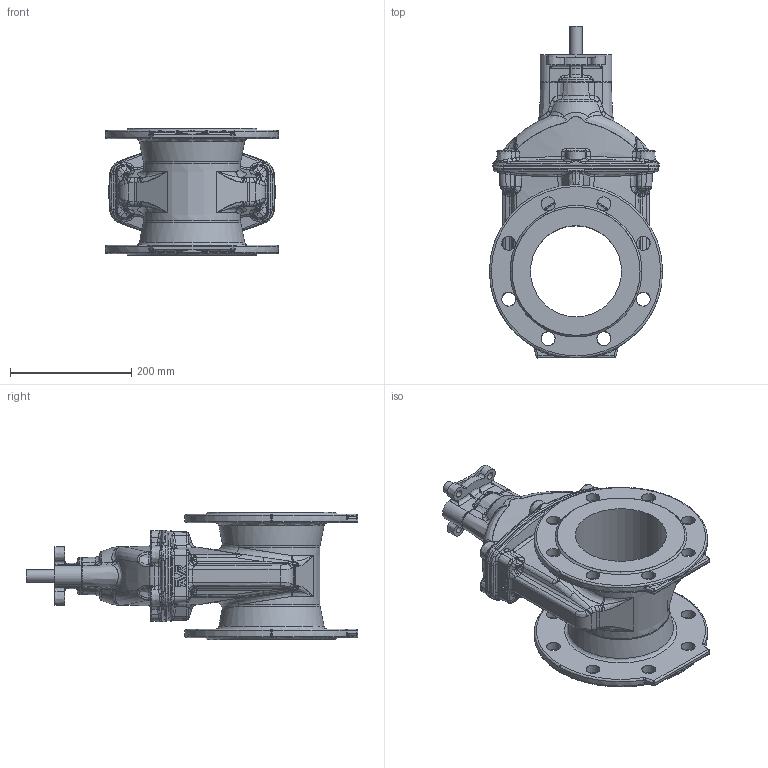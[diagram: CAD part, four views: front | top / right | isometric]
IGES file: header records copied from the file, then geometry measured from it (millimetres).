
Start section: SolidWorks IGES file using analytic representation for surfaces
Global section: file name: \\avksan2\techshare\PBM outline export from Enovia\O_06_42_DN150_X1XXX_REV02.igs; native system: SolidWorks 2022; preprocessor: SolidWorks 2022; author: pbm; date: 251218.075735; units: millimetre
Bounding box: 284.98 x 546.5 x 210 mm (x, y, z)
Surface area: 592019.4 mm2 (no closed solid volume)
Topology: 0 solids, 0 shells, 1011 faces, 4940 edges, 4849 vertices
Faces by surface type: bspline 641, revolution 370
